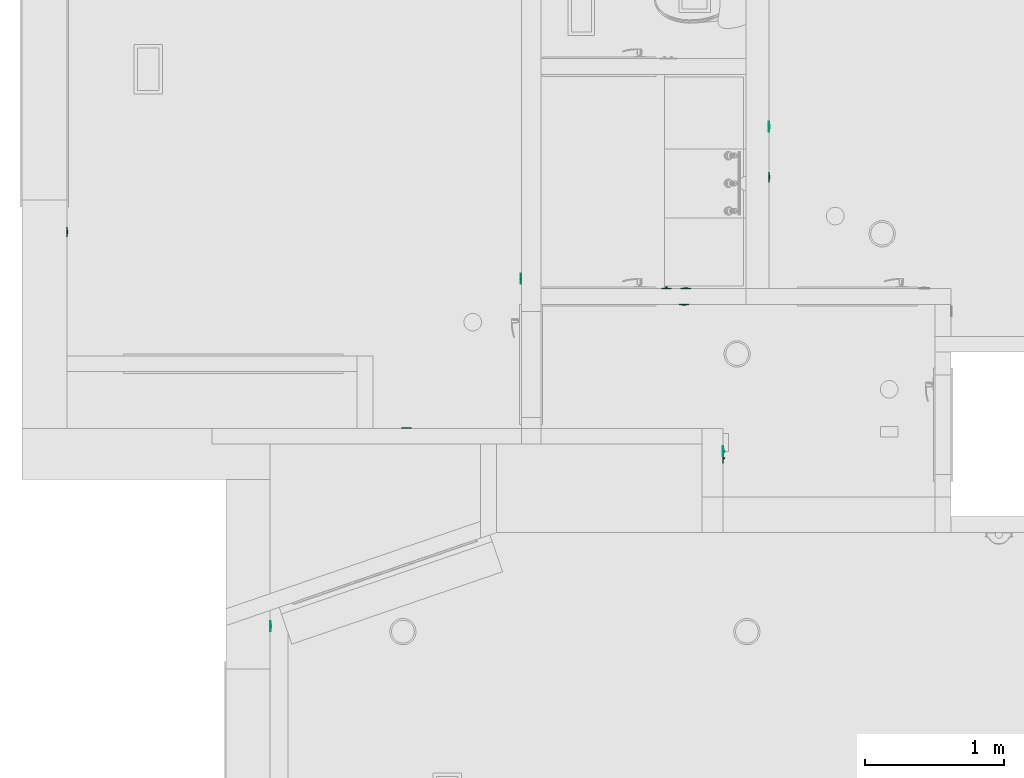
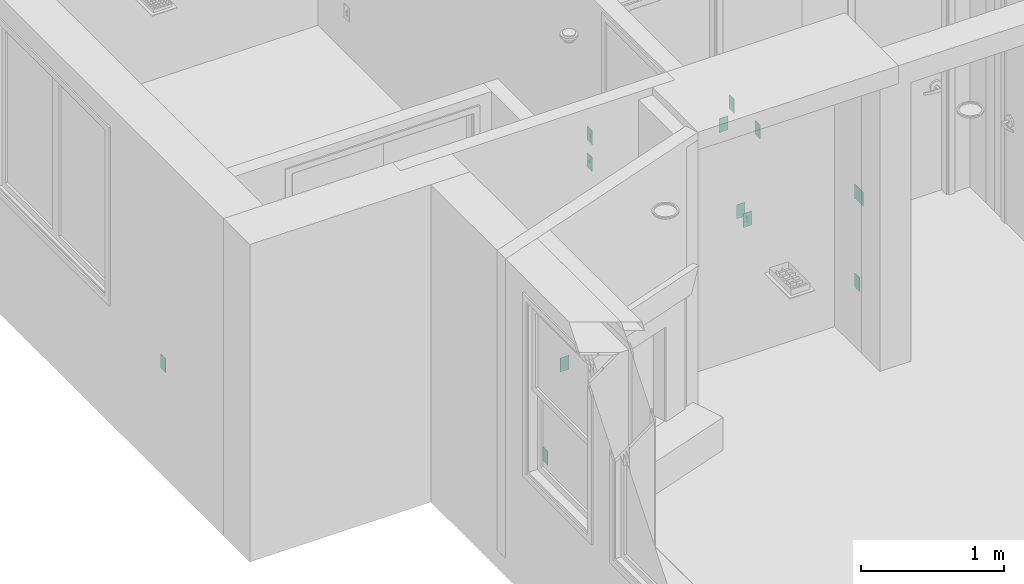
# One storey, part 9 of 48: 12 flow controllers.
"""IFC2X3 building model written with IfcOpenShell, lengths in inches."""

from ifc_helpers import new_model, entity, si_unit, converted_unit, derived_unit, money_unit, direction, frame, origin_with_axes, place, context, subcontext, project, spatial, faceted_brep, source, transform, mapped, type_object, element, save


model = new_model("IFC2X3")

# Units and contexts
model_context = context("Model", 3, precision=0.00039370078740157, world=origin_with_axes(), true_north=direction((0.0, 1.0)))
plan_context = context("Plan", 3, precision=0.00039370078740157, world=origin_with_axes(), true_north=direction((0.0, 1.0)))
body_context = subcontext(model_context, "Body", "Model", "MODEL_VIEW")
ifc_project = project(units=[converted_unit("LENGTHUNIT", "INCH", entity("IfcPositiveLengthMeasure", 0.0254), si_unit("LENGTHUNIT", "METRE"), dimensions=[1, 0, 0, 0, 0, 0, 0]), converted_unit("AREAUNIT", "SQUARE_FOOT", entity("IfcPositiveLengthMeasure", 0.09290304), si_unit("AREAUNIT", "SQUARE_METRE"), dimensions=[2, 0, 0, 0, 0, 0, 0]), si_unit("PLANEANGLEUNIT", "RADIAN"), si_unit("SOLIDANGLEUNIT", "STERADIAN"), money_unit("USD"), converted_unit("TIMEUNIT", "Year", entity("IfcTimeMeasure", 31557600.0), si_unit("TIMEUNIT", "SECOND"), dimensions=[0, 0, 1, 0, 0, 0, 0]), si_unit("MASSUNIT", "GRAM", prefix="KILO"), si_unit("THERMODYNAMICTEMPERATUREUNIT", "DEGREE_CELSIUS"), si_unit("LUMINOUSINTENSITYUNIT", "LUMEN"), si_unit("ENERGYUNIT", "JOULE", prefix="MEGA"), derived_unit("SPECIFICHEATCAPACITYUNIT", [(si_unit("ENERGYUNIT", "JOULE"), 1), (si_unit("MASSUNIT", "GRAM", prefix="KILO"), -1), (si_unit("THERMODYNAMICTEMPERATUREUNIT", "KELVIN"), -1)])], contexts=[model_context, plan_context])

# Site, building, storey
site_placement = place(None, origin_with_axes())
site = spatial("IfcSite", under=ifc_project, at=site_placement, Name="Site", CompositionType="ELEMENT")
building_placement = place(site_placement, origin_with_axes())
building = spatial("IfcBuilding", under=site, at=building_placement, Name="Building", CompositionType="ELEMENT")
storey_placement = place(building_placement, origin_with_axes())
storey = spatial("IfcBuildingStorey", under=building, at=storey_placement, Name="First Floor", CompositionType="ELEMENT", Elevation=0.0)

# Flow controllers
switching_device_type_1 = type_object("IfcSwitchingDeviceType", Name="Outlet 1 US", PredefinedType="NOTDEFINED")
shared_shape_1 = source(origin_with_axes(), body_context, "Body", "Brep", [
    faceted_brep([(0.39370078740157, -0.03444881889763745, -1.18110236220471), (0.5436477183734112, -0.03444881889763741, -0.7086614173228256), (0.5436477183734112, -0.2165354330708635, -0.7086614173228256), (0.39370078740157, -0.2165354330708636, -1.18110236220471), (-0.3937007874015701, -0.03444881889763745, -1.181102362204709), (-0.543647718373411, -0.03444881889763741, -0.7086614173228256), (-0.39370078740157, -0.03444881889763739, -0.2362204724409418), (0.3937007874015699, -0.03444881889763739, -0.2362204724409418), (-0.196850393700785, -0.03444881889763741, -0.7086614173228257), (-0.196850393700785, -0.0344488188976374, -0.4724409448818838), (-0.275590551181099, -0.0344488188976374, -0.4724409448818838), (-0.275590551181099, -0.03444881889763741, -0.7086614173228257), (0.196850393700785, -0.03444881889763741, -0.7086614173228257), (0.275590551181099, -0.03444881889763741, -0.7086614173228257), (0.275590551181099, -0.0344488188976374, -0.4724409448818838), (0.196850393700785, -0.0344488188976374, -0.4724409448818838), (-0.078740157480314, -0.03444881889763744, -1.102362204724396), (0.078740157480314, -0.03444881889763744, -1.102362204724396), (0.078740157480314, -0.03444881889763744, -1.023622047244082), (0.06819097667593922, -0.03444881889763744, -0.9842519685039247), (0.03937007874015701, -0.03444881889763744, -0.9554310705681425), (0.0, -0.03444881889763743, -0.9448818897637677), (-0.03937007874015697, -0.03444881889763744, -0.9554310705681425), (-0.06819097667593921, -0.03444881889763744, -0.9842519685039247), (-0.078740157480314, -0.03444881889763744, -1.023622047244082), (0.3937007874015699, -0.2165354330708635, -0.2362204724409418), (-0.39370078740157, -0.2165354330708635, -0.2362204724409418), (-0.543647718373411, -0.2165354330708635, -0.7086614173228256), (-0.3937007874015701, -0.2165354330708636, -1.181102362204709), (-0.196850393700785, -0.2165354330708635, -0.7086614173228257), (-0.275590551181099, -0.2165354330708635, -0.7086614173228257), (-0.275590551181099, -0.2165354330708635, -0.4724409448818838), (-0.196850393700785, -0.2165354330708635, -0.4724409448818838), (0.196850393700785, -0.2165354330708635, -0.7086614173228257), (0.196850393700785, -0.2165354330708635, -0.4724409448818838), (0.275590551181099, -0.2165354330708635, -0.4724409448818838), (0.275590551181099, -0.2165354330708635, -0.7086614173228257), (-0.078740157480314, -0.2165354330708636, -1.102362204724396), (-0.078740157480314, -0.2165354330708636, -1.023622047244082), (-0.06819097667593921, -0.2165354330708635, -0.9842519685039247), (-0.03937007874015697, -0.2165354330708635, -0.9554310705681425), (0.0, -0.2165354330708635, -0.9448818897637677), (0.03937007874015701, -0.2165354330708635, -0.9554310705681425), (0.06819097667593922, -0.2165354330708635, -0.9842519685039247), (0.078740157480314, -0.2165354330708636, -1.023622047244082), (0.078740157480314, -0.2165354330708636, -1.102362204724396)], [[[0, 1, 2, 3]], [[0, 4, 5, 6, 7, 1], [8, 9, 10, 11], [12, 13, 14, 15], [16, 17, 18, 19, 20, 21, 22, 23, 24]], [[1, 7, 25, 2]], [[3, 2, 25, 26, 27, 28], [29, 30, 31, 32], [33, 34, 35, 36], [37, 38, 39, 40, 41, 42, 43, 44, 45]], [[4, 0, 3, 28]], [[5, 4, 28, 27]], [[6, 5, 27, 26]], [[7, 6, 26, 25]], [[9, 8, 29, 32]], [[10, 9, 32, 31]], [[11, 10, 31, 30]], [[8, 11, 30, 29]], [[13, 12, 33, 36]], [[14, 13, 36, 35]], [[15, 14, 35, 34]], [[12, 15, 34, 33]], [[17, 16, 37, 45]], [[18, 17, 45, 44]], [[19, 18, 44, 43]], [[20, 19, 43, 42]], [[21, 20, 42, 41]], [[22, 21, 41, 40]], [[23, 22, 40, 39]], [[24, 23, 39, 38]], [[16, 24, 38, 37]]]),
    faceted_brep([(0.39370078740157, -0.03444881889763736, 0.2362204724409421), (0.5436477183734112, -0.03444881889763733, 0.7086614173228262), (0.5436477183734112, -0.2165354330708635, 0.7086614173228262), (0.39370078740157, -0.2165354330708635, 0.2362204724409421), (-0.3937007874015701, -0.03444881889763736, 0.2362204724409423), (-0.543647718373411, -0.03444881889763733, 0.7086614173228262), (-0.39370078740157, -0.0344488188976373, 1.18110236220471), (0.3937007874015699, -0.0344488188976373, 1.18110236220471), (-0.196850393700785, -0.03444881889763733, 0.7086614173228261), (-0.196850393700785, -0.03444881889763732, 0.944881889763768), (-0.275590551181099, -0.03444881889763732, 0.944881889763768), (-0.275590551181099, -0.03444881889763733, 0.7086614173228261), (0.196850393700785, -0.03444881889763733, 0.7086614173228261), (0.275590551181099, -0.03444881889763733, 0.7086614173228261), (0.275590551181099, -0.03444881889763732, 0.944881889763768), (0.196850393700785, -0.03444881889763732, 0.944881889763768), (-0.078740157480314, -0.03444881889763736, 0.3149606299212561), (0.078740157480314, -0.03444881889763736, 0.3149606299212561), (0.078740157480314, -0.03444881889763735, 0.3937007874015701), (0.06819097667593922, -0.03444881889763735, 0.4330708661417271), (0.03937007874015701, -0.03444881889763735, 0.4618917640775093), (0.0, -0.03444881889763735, 0.472440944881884), (-0.03937007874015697, -0.03444881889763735, 0.4618917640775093), (-0.06819097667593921, -0.03444881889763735, 0.4330708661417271), (-0.078740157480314, -0.03444881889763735, 0.3937007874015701), (0.3937007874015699, -0.2165354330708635, 1.18110236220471), (-0.39370078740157, -0.2165354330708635, 1.18110236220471), (-0.543647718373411, -0.2165354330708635, 0.7086614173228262), (-0.3937007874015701, -0.2165354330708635, 0.2362204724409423), (-0.196850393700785, -0.2165354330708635, 0.7086614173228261), (-0.275590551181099, -0.2165354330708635, 0.7086614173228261), (-0.275590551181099, -0.2165354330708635, 0.944881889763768), (-0.196850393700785, -0.2165354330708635, 0.944881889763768), (0.196850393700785, -0.2165354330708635, 0.7086614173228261), (0.196850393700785, -0.2165354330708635, 0.944881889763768), (0.275590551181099, -0.2165354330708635, 0.944881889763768), (0.275590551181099, -0.2165354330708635, 0.7086614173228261), (-0.078740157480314, -0.2165354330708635, 0.3149606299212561), (-0.078740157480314, -0.2165354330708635, 0.3937007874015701), (-0.06819097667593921, -0.2165354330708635, 0.4330708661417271), (-0.03937007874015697, -0.2165354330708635, 0.4618917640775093), (0.0, -0.2165354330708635, 0.472440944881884), (0.03937007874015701, -0.2165354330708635, 0.4618917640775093), (0.06819097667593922, -0.2165354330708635, 0.4330708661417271), (0.078740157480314, -0.2165354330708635, 0.3937007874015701), (0.078740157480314, -0.2165354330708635, 0.3149606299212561)], [[[0, 1, 2, 3]], [[0, 4, 5, 6, 7, 1], [8, 9, 10, 11], [12, 13, 14, 15], [16, 17, 18, 19, 20, 21, 22, 23, 24]], [[1, 7, 25, 2]], [[3, 2, 25, 26, 27, 28], [29, 30, 31, 32], [33, 34, 35, 36], [37, 38, 39, 40, 41, 42, 43, 44, 45]], [[4, 0, 3, 28]], [[5, 4, 28, 27]], [[6, 5, 27, 26]], [[7, 6, 26, 25]], [[9, 8, 29, 32]], [[10, 9, 32, 31]], [[11, 10, 31, 30]], [[8, 11, 30, 29]], [[13, 12, 33, 36]], [[14, 13, 36, 35]], [[15, 14, 35, 34]], [[12, 15, 34, 33]], [[17, 16, 37, 45]], [[18, 17, 45, 44]], [[19, 18, 44, 43]], [[20, 19, 43, 42]], [[21, 20, 42, 41]], [[22, 21, 41, 40]], [[23, 22, 40, 39]], [[24, 23, 39, 38]], [[16, 24, 38, 37]]]),
    faceted_brep([(-1.343503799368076, -0.1377952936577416, -2.327755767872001), (1.343503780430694, -0.1377952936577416, -2.327755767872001), (1.343503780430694, -0.1377952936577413, 2.327755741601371), (-1.343503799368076, -0.1377952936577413, 2.327755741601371), (0.39370078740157, -0.1377952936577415, -1.18110236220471), (-0.3937007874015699, -0.1377952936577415, -1.181102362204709), (-0.5436477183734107, -0.1377952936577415, -0.7086614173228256), (-0.39370078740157, -0.1377952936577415, -0.2362204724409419), (0.3937007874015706, -0.1377952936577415, -0.2362204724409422), (0.5436477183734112, -0.1377952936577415, -0.7086614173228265), (-0.39370078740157, -0.1377952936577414, 1.18110236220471), (0.3937007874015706, -0.1377952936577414, 1.18110236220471), (0.5436477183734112, -0.1377952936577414, 0.7086614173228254), (0.39370078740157, -0.1377952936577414, 0.236220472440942), (-0.3937007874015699, -0.1377952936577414, 0.2362204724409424), (-0.5436477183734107, -0.1377952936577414, 0.7086614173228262), (-1.352419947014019, -0.1366214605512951, -2.336671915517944), (1.352419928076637, -0.1366214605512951, -2.336671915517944), (1.352419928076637, -0.1366214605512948, 2.336671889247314), (-1.352419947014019, -0.1366214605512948, 2.336671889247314), (0.39370078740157, -0.03444881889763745, -1.18110236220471), (-0.3937007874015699, -0.03444881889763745, -1.181102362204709), (-0.5436477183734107, -0.03444881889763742, -0.7086614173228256), (-0.39370078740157, -0.03444881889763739, -0.2362204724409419), (0.3937007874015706, -0.03444881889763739, -0.2362204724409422), (0.5436477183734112, -0.03444881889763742, -0.7086614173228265), (-0.39370078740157, -0.0344488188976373, 1.18110236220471), (0.3937007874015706, -0.0344488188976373, 1.18110236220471), (0.5436477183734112, -0.03444881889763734, 0.7086614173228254), (0.39370078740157, -0.03444881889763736, 0.236220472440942), (-0.3937007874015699, -0.03444881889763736, 0.2362204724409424), (-0.5436477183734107, -0.03444881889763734, 0.7086614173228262), (-1.36786294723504, -0.1277054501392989, -2.352114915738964), (1.367862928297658, -0.1277054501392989, -2.352114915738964), (1.367862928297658, -0.1277054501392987, 2.352114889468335), (-1.36786294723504, -0.1277054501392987, 2.352114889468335), (-1.376778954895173, -0.1122624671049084, -2.361030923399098), (1.376778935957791, -0.1122624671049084, -2.361030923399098), (1.376778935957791, -0.1122624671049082, 2.361030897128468), (-1.376778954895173, -0.1122624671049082, 2.361030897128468), (-1.377952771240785, -0.1033464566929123, -2.362204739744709), (1.377952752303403, -0.1033464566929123, -2.362204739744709), (1.377952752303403, -0.103346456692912, 2.36220471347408), (-1.377952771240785, -0.103346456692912, 2.36220471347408), (-1.377952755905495, 0.0, -2.36220472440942), (1.377952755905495, 0.0, -2.36220472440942), (1.377952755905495, 0.0, 2.36220472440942), (-1.377952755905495, 0.0, 2.36220472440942)], [[[0, 1, 2, 3], [4, 5, 6, 7, 8, 9], [10, 11, 12, 13, 14, 15]], [[1, 0, 16, 17]], [[2, 1, 17, 18]], [[3, 2, 18, 19]], [[0, 3, 19, 16]], [[4, 20, 21, 5]], [[5, 21, 22, 6]], [[6, 22, 23, 7]], [[7, 23, 24, 8]], [[8, 24, 25, 9]], [[9, 25, 20, 4]], [[11, 10, 26, 27]], [[12, 11, 27, 28]], [[13, 12, 28, 29]], [[14, 13, 29, 30]], [[15, 14, 30, 31]], [[10, 15, 31, 26]], [[17, 16, 32, 33]], [[18, 17, 33, 34]], [[19, 18, 34, 35]], [[16, 19, 35, 32]], [[22, 21, 20, 25, 24, 23]], [[28, 27, 26, 31, 30, 29]], [[33, 32, 36, 37]], [[34, 33, 37, 38]], [[35, 34, 38, 39]], [[32, 35, 39, 36]], [[37, 36, 40, 41]], [[38, 37, 41, 42]], [[39, 38, 42, 43]], [[36, 39, 43, 40]], [[41, 40, 44, 45]], [[42, 41, 45, 46]], [[43, 42, 46, 47]], [[40, 43, 47, 44]], [[46, 45, 44, 47]]]),
])
for number, where, z_axis, x_axis, name in (
    (1, (-74.99845132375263, 421.9999999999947, 13.99999999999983), (0.0, 0.0, 1.0), (1.0, 0.0, 0.0), "FU - 029"),
    (2, (-74.49222886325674, 426.4999999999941, 13.99803149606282), (0.0, 0.0, 1.0), (-1.0, 0.0, 0.0), "FU - 029"),
    (3, (-50.99952807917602, 457.999999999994, 13.99803149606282), (0.0, 0.0, 1.0), (0.0, 1.0, 0.0), "FU - 029"),
    (4, (-249.4999999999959, 442.4999999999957, 13.99803149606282), (0.0, 0.0, 1.0), (0.0, 1.0, 0.0), "FU - 029"),
    (5, (-153.4932285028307, 386.9999999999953, 13.99803149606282), (0.0, 0.0, 1.0), (-1.0, 0.0, 0.0), "FU - 029"),
):
    element("IfcFlowController", number, at=place(storey_placement, frame(where, z_axis=z_axis, x_axis=x_axis)), inside=storey, type_object=switching_device_type_1, Name=name, context=body_context, shape_type="MappedRepresentation", body=[
        mapped(shared_shape_1, transform((0.0, 0.0, 0.0))),
    ])
switching_device_type_2 = type_object("IfcSwitchingDeviceType", Name="Switch US", PredefinedType="NOTDEFINED")
shared_shape_2 = source(origin_with_axes(), body_context, "Body", "Brep", [
    faceted_brep([(0.196850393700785, 0.0, -0.5905511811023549), (-0.196850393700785, 0.0, -0.5905511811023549), (-0.196850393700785, 0.0, 0.5905511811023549), (0.196850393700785, 0.0, 0.5905511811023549), (0.196850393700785, -0.1033464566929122, -0.5905511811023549), (-0.196850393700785, -0.1033464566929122, -0.5905511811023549), (-0.196850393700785, -0.1033464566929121, 0.157480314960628), (-0.196850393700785, -0.4970472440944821, 0.1574803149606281), (-0.196850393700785, -0.4970472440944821, 0.472440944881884), (-0.196850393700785, -0.1033464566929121, 0.472440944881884), (-0.196850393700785, -0.1033464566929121, 0.5905511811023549), (0.196850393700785, -0.103346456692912, 0.5905511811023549), (0.196850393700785, -0.1033464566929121, 0.472440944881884), (0.196850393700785, -0.4970472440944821, 0.472440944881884), (0.196850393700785, -0.4970472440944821, 0.1574803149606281), (0.196850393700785, -0.1033464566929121, 0.157480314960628)], [[[0, 1, 2, 3]], [[4, 5, 1, 0]], [[1, 5, 6, 7, 8, 9, 10, 2]], [[3, 2, 10, 11]], [[0, 3, 11, 12, 13, 14, 15, 4]], [[15, 6, 5, 4]], [[14, 7, 6, 15]], [[13, 8, 7, 14]], [[12, 9, 8, 13]], [[11, 10, 9, 12]]]),
    faceted_brep([(0.275590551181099, 0.0, -0.669291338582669), (0.275590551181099, -0.1771653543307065, -0.669291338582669), (-0.275590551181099, -0.1771653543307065, -0.669291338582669), (-0.275590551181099, 0.0, -0.669291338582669), (0.275590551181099, 0.0, 0.669291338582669), (0.275590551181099, -0.1771653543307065, 0.669291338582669), (-0.275590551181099, -0.1771653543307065, 0.669291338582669), (0.196850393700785, -0.1771653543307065, -0.5905511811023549), (-0.196850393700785, -0.1771653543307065, -0.5905511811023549), (-0.196850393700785, -0.1771653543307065, 0.5905511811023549), (0.196850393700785, -0.1771653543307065, 0.5905511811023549), (-0.275590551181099, 0.0, 0.669291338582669), (0.196850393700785, 0.0, -0.5905511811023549), (0.196850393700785, 0.0, 0.5905511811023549), (-0.196850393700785, 0.0, 0.5905511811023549), (-0.196850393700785, 0.0, -0.5905511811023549)], [[[0, 1, 2, 3]], [[4, 5, 1, 0]], [[1, 5, 6, 2], [7, 8, 9, 10]], [[3, 2, 6, 11]], [[0, 3, 11, 4], [12, 13, 14, 15]], [[11, 6, 5, 4]], [[15, 8, 7, 12]], [[14, 9, 8, 15]], [[13, 10, 9, 14]], [[12, 7, 10, 13]]]),
    faceted_brep([(1.343503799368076, -0.1377952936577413, 2.32775574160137), (-1.343503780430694, -0.1377952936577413, 2.32775574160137), (-1.343503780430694, -0.1377952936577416, -2.327755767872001), (1.343503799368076, -0.1377952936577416, -2.327755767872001), (0.275590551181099, -0.1377952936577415, -0.669291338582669), (-0.275590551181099, -0.1377952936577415, -0.669291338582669), (-0.275590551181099, -0.1377952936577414, 0.669291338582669), (0.275590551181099, -0.1377952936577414, 0.669291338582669), (1.352419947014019, -0.1366214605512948, 2.336671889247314), (-1.352419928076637, -0.1366214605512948, 2.336671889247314), (-1.352419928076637, -0.1366214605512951, -2.336671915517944), (1.352419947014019, -0.1366214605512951, -2.336671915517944), (-0.275590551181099, 0.0, -0.669291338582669), (0.275590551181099, 0.0, -0.669291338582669), (-0.275590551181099, 0.0, 0.669291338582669), (0.275590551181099, 0.0, 0.669291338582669), (1.36786294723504, -0.1277054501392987, 2.352114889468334), (-1.367862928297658, -0.1277054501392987, 2.352114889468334), (-1.367862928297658, -0.1277054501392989, -2.352114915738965), (1.36786294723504, -0.1277054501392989, -2.352114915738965), (1.377952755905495, 0.0, 2.36220472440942), (1.377952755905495, 0.0, -2.36220472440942), (-1.377952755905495, 0.0, -2.36220472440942), (-1.377952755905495, 0.0, 2.36220472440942), (1.376778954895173, -0.1122624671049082, 2.361030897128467), (-1.376778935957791, -0.1122624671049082, 2.361030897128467), (-1.376778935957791, -0.1122624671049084, -2.361030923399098), (1.376778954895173, -0.1122624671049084, -2.361030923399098), (1.377952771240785, -0.103346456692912, 2.362204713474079), (1.377952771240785, -0.1033464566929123, -2.36220473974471), (-1.377952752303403, -0.1033464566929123, -2.36220473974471), (-1.377952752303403, -0.103346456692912, 2.362204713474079)], [[[0, 1, 2, 3], [4, 5, 6, 7]], [[8, 9, 1, 0]], [[9, 10, 2, 1]], [[10, 11, 3, 2]], [[11, 8, 0, 3]], [[12, 5, 4, 13]], [[14, 6, 5, 12]], [[15, 7, 6, 14]], [[13, 4, 7, 15]], [[16, 17, 9, 8]], [[17, 18, 10, 9]], [[18, 19, 11, 10]], [[19, 16, 8, 11]], [[20, 21, 22, 23], [13, 15, 14, 12]], [[24, 25, 17, 16]], [[25, 26, 18, 17]], [[26, 27, 19, 18]], [[27, 24, 16, 19]], [[21, 20, 28, 29]], [[22, 21, 29, 30]], [[23, 22, 30, 31]], [[20, 23, 31, 28]], [[28, 31, 25, 24]], [[31, 30, 26, 25]], [[30, 29, 27, 26]], [[29, 28, 24, 27]]]),
])
for number, where, z_axis, x_axis, name in (
    (6, (-121.0000000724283, 429.2501103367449, 44.99999999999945), (0.0, 0.0, 1.0), (0.0, -1.0, 0.0), "OBJ-09"),
    (7, (-79.99222886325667, 426.4999999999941, 44.99999999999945), (0.0, 0.0, 1.0), (-1.0, 0.0, 0.0), "OBJ-09"),
):
    element("IfcFlowController", number, at=place(storey_placement, frame(where, z_axis=z_axis, x_axis=x_axis)), inside=storey, type_object=switching_device_type_2, Name=name, context=body_context, shape_type="MappedRepresentation", body=[
        mapped(shared_shape_2, transform((0.0, 0.0, 0.0))),
    ])
shared_shape_3 = source(origin_with_axes(), body_context, "Body", "Brep", [
    faceted_brep([(0.39370078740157, -0.0344488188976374, -0.472440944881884), (0.3937007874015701, -0.03444881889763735, 0.472440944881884), (0.3937007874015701, -0.2165354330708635, 0.472440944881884), (0.39370078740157, -0.2165354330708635, -0.472440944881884), (-0.3937007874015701, -0.0344488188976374, -0.4724409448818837), (-0.39370078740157, -0.03444881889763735, 0.472440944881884), (-0.39370078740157, -0.2165354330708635, 0.472440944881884), (-0.3937007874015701, -0.2165354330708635, -0.4724409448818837)], [[[0, 1, 2, 3]], [[0, 4, 5, 1]], [[1, 5, 6, 2]], [[3, 2, 6, 7]], [[4, 0, 3, 7]], [[5, 4, 7, 6]]]),
    faceted_brep([(1.377952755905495, -0.1377952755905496, -2.36220472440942), (1.377952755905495, -0.1377952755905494, 2.36220472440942), (-1.377952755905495, -0.1377952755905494, 2.36220472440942), (-1.377952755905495, -0.1377952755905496, -2.36220472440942), (-0.3937007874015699, -0.1377952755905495, -0.4724409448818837), (-0.39370078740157, -0.1377952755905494, 0.4724409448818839), (0.3937007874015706, -0.1377952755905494, 0.4724409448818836), (0.39370078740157, -0.1377952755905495, -0.472440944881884), (1.377952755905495, 0.0, 2.36220472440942), (1.377952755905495, 0.0, -2.36220472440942), (-1.377952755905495, 0.0, 2.36220472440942), (-1.377952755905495, 0.0, -2.36220472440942), (-0.3937007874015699, -0.0344488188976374, -0.4724409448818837), (-0.39370078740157, -0.03444881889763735, 0.4724409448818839), (0.3937007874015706, -0.03444881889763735, 0.4724409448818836), (0.39370078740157, -0.0344488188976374, -0.472440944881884)], [[[0, 1, 2, 3], [4, 5, 6, 7]], [[8, 1, 0, 9]], [[10, 2, 1, 8]], [[11, 3, 2, 10]], [[9, 0, 3, 11]], [[5, 4, 12, 13]], [[6, 5, 13, 14]], [[7, 6, 14, 15]], [[4, 7, 15, 12]], [[10, 8, 9, 11]], [[14, 13, 12, 15]]]),
])
for number, where, z_axis, x_axis, name in (
    (8, (-121.0000000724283, 429.2501103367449, 53.99999999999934), (0.0, 0.0, 1.0), (0.0, -1.0, 0.0), "OBJ-05"),
    (9, (-50.99952807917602, 472.2499999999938, 13.99999999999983), (0.0, 0.0, 1.0), (0.0, 1.0, 0.0), "OBJ-05"),
    (10, (-192.0000016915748, 330.9991206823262, 30.24999999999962), (0.0, 0.0, 1.0), (0.0, 1.0, 0.0), "OBJ-05"),
    (11, (-63.99999999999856, 380.4999999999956, 13.99999999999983), (0.0, 0.0, 1.0), (0.0, 1.0, 0.0), "OBJ-05"),
):
    element("IfcFlowController", number, at=place(storey_placement, frame(where, z_axis=z_axis, x_axis=x_axis)), inside=storey, type_object=switching_device_type_1, Name=name, context=body_context, shape_type="MappedRepresentation", body=[
        mapped(shared_shape_3, transform((0.0, 0.0, 0.0))),
    ])
shared_shape_4 = source(origin_with_axes(), body_context, "Body", "Brep", [
    faceted_brep([(-1.18110236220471, 0.0, -0.5905511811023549), (-1.18110236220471, 0.0, 0.5905511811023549), (-0.7874015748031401, 0.0, 0.5905511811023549), (-0.7874015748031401, 0.0, -0.5905511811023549), (-1.18110236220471, -0.1033464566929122, -0.5905511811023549), (-1.18110236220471, -0.1033464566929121, 0.157480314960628), (-1.18110236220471, -0.4970472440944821, 0.1574803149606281), (-1.18110236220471, -0.4970472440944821, 0.472440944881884), (-1.18110236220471, -0.1033464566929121, 0.472440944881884), (-1.18110236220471, -0.103346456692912, 0.5905511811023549), (-0.7874015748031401, -0.1033464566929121, 0.5905511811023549), (-0.7874015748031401, -0.1033464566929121, 0.472440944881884), (-0.7874015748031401, -0.4970472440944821, 0.472440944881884), (-0.7874015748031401, -0.4970472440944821, 0.1574803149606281), (-0.7874015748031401, -0.1033464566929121, 0.157480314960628), (-0.7874015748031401, -0.1033464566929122, -0.5905511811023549)], [[[0, 1, 2, 3]], [[0, 4, 5, 6, 7, 8, 9, 1]], [[1, 9, 10, 2]], [[3, 2, 10, 11, 12, 13, 14, 15]], [[4, 0, 3, 15]], [[5, 4, 15, 14]], [[6, 5, 14, 13]], [[7, 6, 13, 12]], [[8, 7, 12, 11]], [[9, 8, 11, 10]]]),
    faceted_brep([(-1.259842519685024, 0.0, -0.669291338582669), (-0.7086614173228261, 0.0, -0.669291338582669), (-0.7086614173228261, -0.1771653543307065, -0.669291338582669), (-1.259842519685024, -0.1771653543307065, -0.669291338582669), (-1.259842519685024, 0.0, 0.669291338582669), (-0.7086614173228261, 0.0, 0.669291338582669), (-1.18110236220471, 0.0, -0.5905511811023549), (-0.78740157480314, 0.0, -0.5905511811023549), (-0.78740157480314, 0.0, 0.5905511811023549), (-1.18110236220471, 0.0, 0.5905511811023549), (-0.7086614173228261, -0.1771653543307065, 0.669291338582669), (-1.259842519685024, -0.1771653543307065, 0.669291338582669), (-1.18110236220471, -0.1771653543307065, -0.5905511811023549), (-1.18110236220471, -0.1771653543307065, 0.5905511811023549), (-0.78740157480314, -0.1771653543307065, 0.5905511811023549), (-0.78740157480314, -0.1771653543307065, -0.5905511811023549)], [[[0, 1, 2, 3]], [[0, 4, 5, 1], [6, 7, 8, 9]], [[1, 5, 10, 2]], [[3, 2, 10, 11], [12, 13, 14, 15]], [[4, 0, 3, 11]], [[5, 4, 11, 10]], [[7, 6, 12, 15]], [[8, 7, 15, 14]], [[9, 8, 14, 13]], [[6, 9, 13, 12]]]),
    faceted_brep([(0.0, -0.103346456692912, 2.362204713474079), (0.0, 0.0, 2.36220472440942), (-2.36220472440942, 0.0, 2.36220472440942), (-2.362204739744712, -0.103346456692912, 2.362204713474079), (0.0, 0.0, -2.36220472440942), (0.0, -0.1122624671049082, 2.361030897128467), (0.0, -0.1277054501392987, 2.352114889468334), (0.0, -0.1366214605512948, 2.336671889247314), (0.0, -0.1377952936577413, 2.32775574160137), (0.0, -0.1377952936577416, -2.327755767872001), (0.0, -0.1366214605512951, -2.336671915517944), (0.0, -0.1277054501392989, -2.352114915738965), (0.0, -0.1122624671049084, -2.361030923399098), (0.0, -0.1033464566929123, -2.36220473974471), (-2.36220472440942, 0.0, -2.36220472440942), (-0.7086614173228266, 0.0, -0.669291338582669), (-0.7086614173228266, 0.0, 0.669291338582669), (-1.259842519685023, 0.0, 0.669291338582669), (-1.259842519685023, 0.0, -0.669291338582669), (-2.362204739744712, -0.1033464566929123, -2.36220473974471), (-2.361030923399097, -0.1122624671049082, 2.361030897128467), (-2.352114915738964, -0.1277054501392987, 2.352114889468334), (-2.336671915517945, -0.1366214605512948, 2.336671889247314), (-2.327755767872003, -0.1377952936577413, 2.32775574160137), (-2.327755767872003, -0.1377952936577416, -2.327755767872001), (-1.259842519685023, -0.1377952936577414, 0.669291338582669), (-0.7086614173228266, -0.1377952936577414, 0.669291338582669), (-0.7086614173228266, -0.1377952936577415, -0.669291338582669), (-1.259842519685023, -0.1377952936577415, -0.669291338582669), (-2.336671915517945, -0.1366214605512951, -2.336671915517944), (-2.352114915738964, -0.1277054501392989, -2.352114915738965), (-2.361030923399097, -0.1122624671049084, -2.361030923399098)], [[[0, 1, 2, 3]], [[4, 1, 0, 5, 6, 7, 8, 9, 10, 11, 12, 13]], [[1, 4, 14, 2], [15, 16, 17, 18]], [[19, 3, 2, 14]], [[5, 0, 3, 20]], [[6, 5, 20, 21]], [[7, 6, 21, 22]], [[8, 7, 22, 23]], [[9, 8, 23, 24], [25, 26, 27, 28]], [[10, 9, 24, 29]], [[11, 10, 29, 30]], [[12, 11, 30, 31]], [[13, 12, 31, 19]], [[4, 13, 19, 14]], [[15, 27, 26, 16]], [[16, 26, 25, 17]], [[17, 25, 28, 18]], [[18, 28, 27, 15]], [[31, 20, 3, 19]], [[30, 21, 20, 31]], [[29, 22, 21, 30]], [[24, 23, 22, 29]]]),
    faceted_brep([(0.78740157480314, 0.0, -0.5905511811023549), (0.78740157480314, 0.0, 0.5905511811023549), (1.18110236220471, 0.0, 0.5905511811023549), (1.18110236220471, 0.0, -0.5905511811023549), (0.78740157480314, -0.1033464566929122, -0.5905511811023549), (0.78740157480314, -0.1033464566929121, 0.157480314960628), (0.78740157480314, -0.4970472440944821, 0.1574803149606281), (0.78740157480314, -0.4970472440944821, 0.472440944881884), (0.78740157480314, -0.1033464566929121, 0.472440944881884), (0.78740157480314, -0.103346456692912, 0.5905511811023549), (1.18110236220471, -0.1033464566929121, 0.5905511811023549), (1.18110236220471, -0.1033464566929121, 0.472440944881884), (1.18110236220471, -0.4970472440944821, 0.472440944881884), (1.18110236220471, -0.4970472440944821, 0.1574803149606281), (1.18110236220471, -0.1033464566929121, 0.157480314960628), (1.18110236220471, -0.1033464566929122, -0.5905511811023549)], [[[0, 1, 2, 3]], [[0, 4, 5, 6, 7, 8, 9, 1]], [[1, 9, 10, 2]], [[3, 2, 10, 11, 12, 13, 14, 15]], [[4, 0, 3, 15]], [[5, 4, 15, 14]], [[6, 5, 14, 13]], [[7, 6, 13, 12]], [[8, 7, 12, 11]], [[9, 8, 11, 10]]]),
    faceted_brep([(0.7086614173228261, 0.0, -0.669291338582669), (1.259842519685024, 0.0, -0.669291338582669), (1.259842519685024, -0.1771653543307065, -0.669291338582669), (0.7086614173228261, -0.1771653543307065, -0.669291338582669), (0.7086614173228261, 0.0, 0.669291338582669), (1.259842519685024, 0.0, 0.669291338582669), (0.78740157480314, 0.0, -0.5905511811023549), (1.18110236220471, 0.0, -0.5905511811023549), (1.18110236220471, 0.0, 0.5905511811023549), (0.78740157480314, 0.0, 0.5905511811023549), (1.259842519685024, -0.1771653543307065, 0.669291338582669), (0.7086614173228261, -0.1771653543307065, 0.669291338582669), (0.78740157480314, -0.1771653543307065, -0.5905511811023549), (0.78740157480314, -0.1771653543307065, 0.5905511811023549), (1.18110236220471, -0.1771653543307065, 0.5905511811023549), (1.18110236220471, -0.1771653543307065, -0.5905511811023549)], [[[0, 1, 2, 3]], [[0, 4, 5, 1], [6, 7, 8, 9]], [[1, 5, 10, 2]], [[3, 2, 10, 11], [12, 13, 14, 15]], [[4, 0, 3, 11]], [[5, 4, 11, 10]], [[7, 6, 12, 15]], [[8, 7, 15, 14]], [[9, 8, 14, 13]], [[6, 9, 13, 12]]]),
    faceted_brep([(0.0, 0.0, -2.36220472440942), (0.0, 0.0, 2.36220472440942), (2.362204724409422, 0.0, 2.36220472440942), (2.362204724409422, 0.0, -2.36220472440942), (1.259842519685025, 0.0, -0.669291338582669), (1.259842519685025, 0.0, 0.669291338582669), (0.7086614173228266, 0.0, 0.669291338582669), (0.7086614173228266, 0.0, -0.669291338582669), (0.0, -0.103346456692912, 2.362204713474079), (0.0, -0.1033464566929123, -2.36220473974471), (0.0, -0.1122624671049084, -2.361030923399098), (0.0, -0.1277054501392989, -2.352114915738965), (0.0, -0.1366214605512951, -2.336671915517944), (0.0, -0.1377952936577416, -2.327755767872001), (0.0, -0.1377952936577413, 2.32775574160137), (0.0, -0.1366214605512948, 2.336671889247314), (0.0, -0.1277054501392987, 2.352114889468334), (0.0, -0.1122624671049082, 2.361030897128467), (2.362204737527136, -0.103346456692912, 2.362204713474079), (2.362204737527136, -0.1033464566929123, -2.36220473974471), (1.259842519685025, -0.1377952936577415, -0.669291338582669), (1.259842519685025, -0.1377952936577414, 0.669291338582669), (0.7086614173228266, -0.1377952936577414, 0.669291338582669), (0.7086614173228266, -0.1377952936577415, -0.669291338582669), (2.361030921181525, -0.1122624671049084, -2.361030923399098), (2.352114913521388, -0.1277054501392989, -2.352114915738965), (2.336671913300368, -0.1366214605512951, -2.336671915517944), (2.327755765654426, -0.1377952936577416, -2.327755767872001), (2.327755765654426, -0.1377952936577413, 2.32775574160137), (2.336671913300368, -0.1366214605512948, 2.336671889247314), (2.352114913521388, -0.1277054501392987, 2.352114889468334), (2.361030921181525, -0.1122624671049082, 2.361030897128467)], [[[0, 1, 2, 3], [4, 5, 6, 7]], [[8, 1, 0, 9, 10, 11, 12, 13, 14, 15, 16, 17]], [[1, 8, 18, 2]], [[18, 19, 3, 2]], [[9, 0, 3, 19]], [[4, 20, 21, 5]], [[5, 21, 22, 6]], [[6, 22, 23, 7]], [[7, 23, 20, 4]], [[10, 9, 19, 24]], [[11, 10, 24, 25]], [[12, 11, 25, 26]], [[13, 12, 26, 27]], [[14, 13, 27, 28], [22, 21, 20, 23]], [[15, 14, 28, 29]], [[16, 15, 29, 30]], [[17, 16, 30, 31]], [[8, 17, 31, 18]], [[31, 24, 19, 18]], [[30, 25, 24, 31]], [[29, 26, 25, 30]], [[28, 27, 26, 29]]]),
])
flow_controller_placement = place(storey_placement, frame((-63.99999999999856, 379.4940944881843, 43.99999999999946), z_axis=(0.0, 0.0, 1.0), x_axis=(0.0, 1.0, 0.0)))
element("IfcFlowController", 12, at=flow_controller_placement, inside=storey, type_object=switching_device_type_2, Name="OBJ-09", context=body_context, shape_type="MappedRepresentation", body=[
    mapped(shared_shape_4, transform((0.0, 0.0, 0.0))),
])

save(model, "model.ifc")
